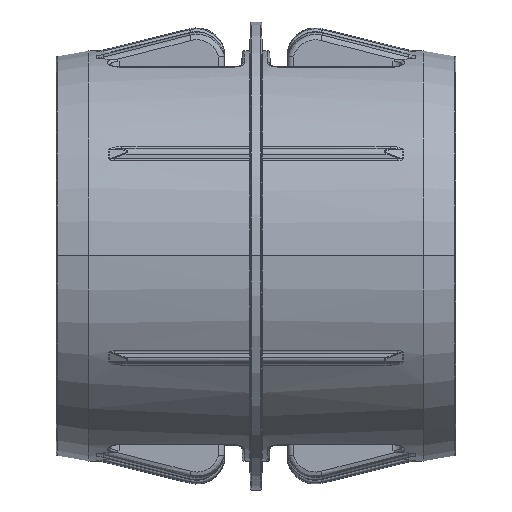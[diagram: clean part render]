
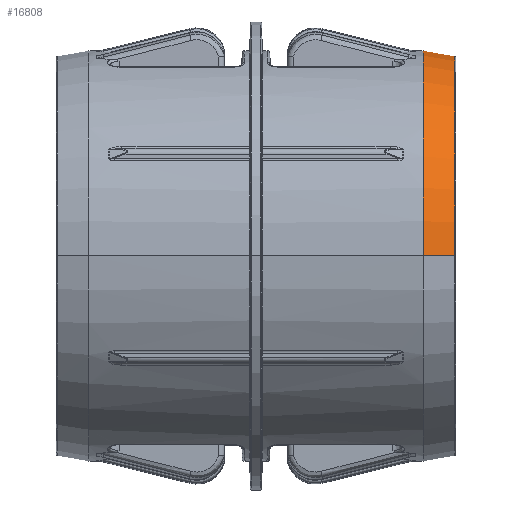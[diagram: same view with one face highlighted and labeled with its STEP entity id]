
A CAD part, top view. The second image highlights one B-rep face of the part: STEP entity #16808.
In plain terms, the highlighted conical face has half-angle 10 degrees and reference radius 35 mm.
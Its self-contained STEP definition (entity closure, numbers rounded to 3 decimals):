
#304 = CARTESIAN_POINT ( 'NONE',  ( 34.835, 34.968, 2.072 ) ) ;
#581 = EDGE_LOOP ( 'NONE', ( #3774, #18237, #19600, #21726, #10545 ) ) ;
#1173 = EDGE_CURVE ( 'NONE', #6978, #14451, #16470, .T. ) ;
#1453 = AXIS2_PLACEMENT_3D ( 'NONE', #3879, #10690, #17054 ) ;
#1463 = DIRECTION ( 'NONE',  ( -0.985, 0., 0.174 ) ) ;
#1581 = CARTESIAN_POINT ( 'NONE',  ( 29.329, 35.939, 2.089 ) ) ;
#2689 = CARTESIAN_POINT ( 'NONE',  ( 32.537, 35.373, 2.079 ) ) ;
#3122 = DIRECTION ( 'NONE',  ( 0., 0., 1. ) ) ;
#3305 = VECTOR ( 'NONE', #1463, 1000. ) ;
#3774 = ORIENTED_EDGE ( 'NONE', *, *, #1173, .T. ) ;
#3879 = CARTESIAN_POINT ( 'NONE',  ( 35., 0., 0. ) ) ;
#3927 = DIRECTION ( 'NONE',  ( 0., 0., 1. ) ) ;
#4119 = CARTESIAN_POINT ( 'NONE',  ( 31.224, 35.605, 2.083 ) ) ;
#5618 = AXIS2_PLACEMENT_3D ( 'NONE', #15076, #19826, #3122 ) ;
#5728 = B_SPLINE_CURVE_WITH_KNOTS ( 'NONE', 3,
 ( #14327, #17632, #15858, #17747, #2689, #4119, #15968, #11254, #5978, #9385 ),
 .UNSPECIFIED., .F., .F.,
 ( 4, 3, 3, 4 ),
 ( 0., 0.001, 0.005, 0.006 ),
 .UNSPECIFIED. ) ;
#5978 = CARTESIAN_POINT ( 'NONE',  ( 29.523, 35.905, 2.088 ) ) ;
#6404 = VERTEX_POINT ( 'NONE', #6563 ) ;
#6563 = CARTESIAN_POINT ( 'NONE',  ( 29.329, 35.939, 2.089 ) ) ;
#6978 = VERTEX_POINT ( 'NONE', #18508 ) ;
#7104 = CARTESIAN_POINT ( 'NONE',  ( 29.329, 0., 0. ) ) ;
#7217 = EDGE_CURVE ( 'NONE', #6978, #18718, #14645, .T. ) ;
#9385 = CARTESIAN_POINT ( 'NONE',  ( 29.329, 35.939, 2.089 ) ) ;
#9876 = CONICAL_SURFACE ( 'NONE', #1453, 35., 0.175 ) ;
#10545 = ORIENTED_EDGE ( 'NONE', *, *, #7217, .F. ) ;
#10690 = DIRECTION ( 'NONE',  ( -1., 0., 0. ) ) ;
#11254 = CARTESIAN_POINT ( 'NONE',  ( 29.717, 35.871, 2.088 ) ) ;
#11276 = EDGE_CURVE ( 'NONE', #6404, #19973, #19378, .T. ) ;
#11498 = CARTESIAN_POINT ( 'NONE',  ( 34.835, 0., 0. ) ) ;
#12259 = EDGE_CURVE ( 'NONE', #14451, #19973, #5728, .T. ) ;
#12601 = AXIS2_PLACEMENT_3D ( 'NONE', #11498, #16550, #14468 ) ;
#13977 = FACE_OUTER_BOUND ( 'NONE', #581, .T. ) ;
#14327 = CARTESIAN_POINT ( 'NONE',  ( 34.835, 34.968, 2.072 ) ) ;
#14451 = VERTEX_POINT ( 'NONE', #304 ) ;
#14468 = DIRECTION ( 'NONE',  ( 0., 0., -1. ) ) ;
#14645 = LINE ( 'NONE', #21344, #3305 ) ;
#15076 = CARTESIAN_POINT ( 'NONE',  ( 29.329, 0., 0. ) ) ;
#15093 = CIRCLE ( 'NONE', #5618, 36. ) ;
#15858 = CARTESIAN_POINT ( 'NONE',  ( 34.178, 35.084, 2.074 ) ) ;
#15968 = CARTESIAN_POINT ( 'NONE',  ( 29.911, 35.837, 2.087 ) ) ;
#16470 = CIRCLE ( 'NONE', #12601, 35.029 ) ;
#16550 = DIRECTION ( 'NONE',  ( -1., 0., 0. ) ) ;
#16571 = AXIS2_PLACEMENT_3D ( 'NONE', #7104, #20295, #3927 ) ;
#16808 = ADVANCED_FACE ( 'NONE', ( #13977 ), #9876, .T. ) ;
#17054 = DIRECTION ( 'NONE',  ( 0., 0., 1. ) ) ;
#17632 = CARTESIAN_POINT ( 'NONE',  ( 34.506, 35.026, 2.073 ) ) ;
#17747 = CARTESIAN_POINT ( 'NONE',  ( 33.85, 35.142, 2.075 ) ) ;
#18237 = ORIENTED_EDGE ( 'NONE', *, *, #12259, .T. ) ;
#18508 = CARTESIAN_POINT ( 'NONE',  ( 34.835, 0., 35.029 ) ) ;
#18718 = VERTEX_POINT ( 'NONE', #21586 ) ;
#19378 = CIRCLE ( 'NONE', #16571, 36. ) ;
#19600 = ORIENTED_EDGE ( 'NONE', *, *, #11276, .F. ) ;
#19826 = DIRECTION ( 'NONE',  ( -1., 0., 0. ) ) ;
#19922 = EDGE_CURVE ( 'NONE', #18718, #6404, #15093, .T. ) ;
#19973 = VERTEX_POINT ( 'NONE', #1581 ) ;
#20295 = DIRECTION ( 'NONE',  ( -1., 0., 0. ) ) ;
#21344 = CARTESIAN_POINT ( 'NONE',  ( 35., 0., 35. ) ) ;
#21586 = CARTESIAN_POINT ( 'NONE',  ( 29.329, 0., 36. ) ) ;
#21726 = ORIENTED_EDGE ( 'NONE', *, *, #19922, .F. ) ;
